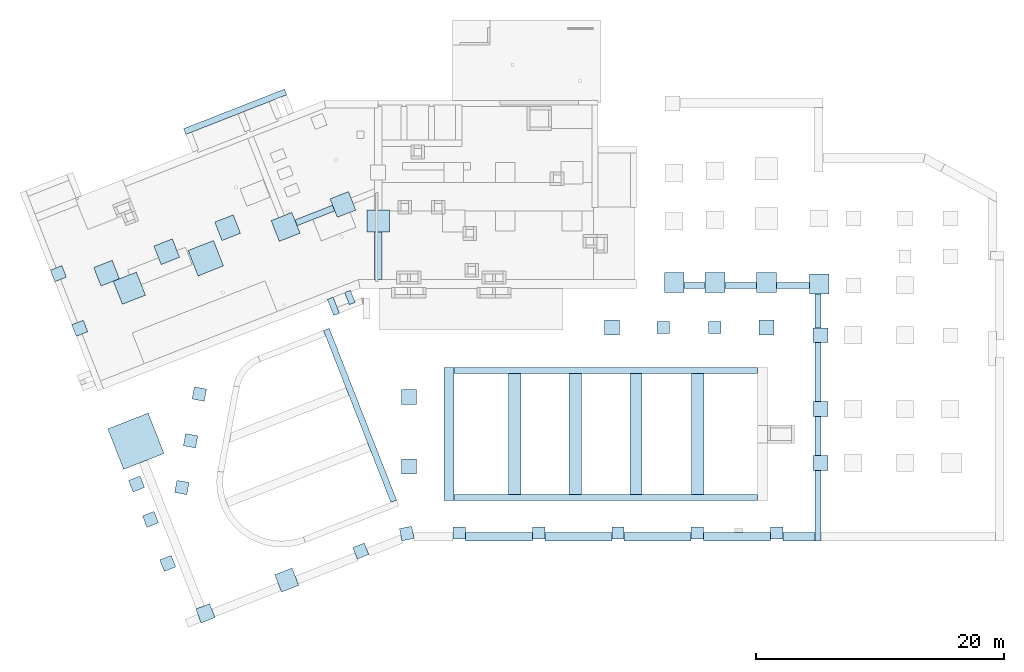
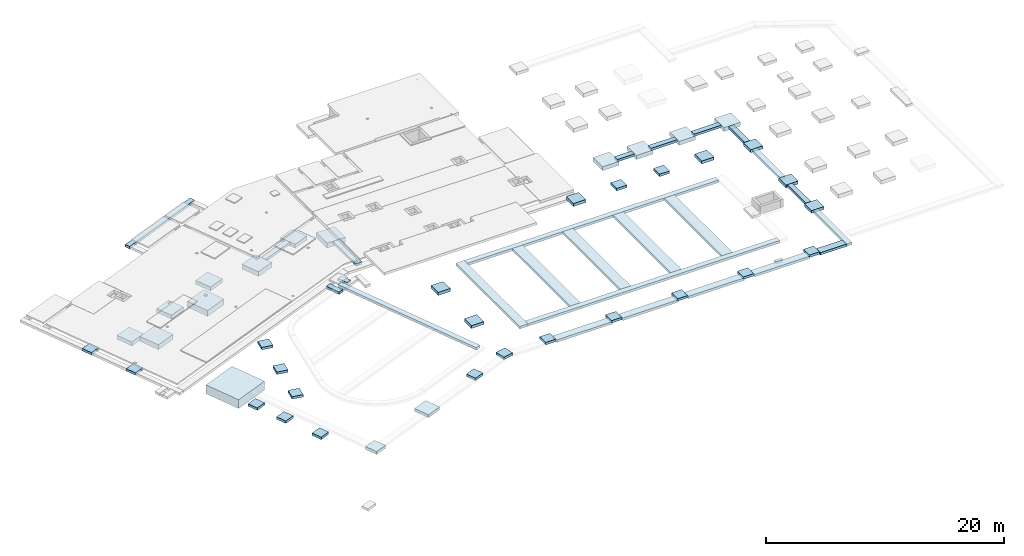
# One storey, part 1 of 9: 64 footings.
"""IFC2X3 building model written with IfcOpenShell, lengths in metres."""

import ifcopenshell
import ifcopenshell.guid

model = None  # the IFC model being written
_history = None  # IfcOwnerHistory: only IFC2X3 demands one
_inside = {}  # id of a spatial element -> (the spatial element, [elements in it])
_under = {}  # id of a project, library or spatial element -> (it, [spatial elements below it])
_declared = {}  # id of a project -> (the project, [libraries it declares])
_typed = {}  # id of a type object -> (the type object, [elements of that type])
_made_of = {}  # id of a material, layer set ... -> (it, [elements and type objects made of it])


def new_model(schema):
    """Start an empty IFC model of exactly this schema.

    Asked for "IFC4X3", IfcOpenShell would pick the latest addendum, in which some entities
    have other attributes; the version numbers below select the first issue.
    IFC2X3 requires an IfcOwnerHistory on every rooted entity: one is made here for all.
    """
    global model, _history
    if schema == "IFC4X3":
        model = ifcopenshell.file(schema_version=(4, 3, 0, 0))
    else:
        model = ifcopenshell.file(schema=schema)
    _inside.clear()
    _under.clear()
    _declared.clear()
    _typed.clear()
    _made_of.clear()
    _history = None
    if model.schema == "IFC2X3":
        org = make("IfcOrganization", Name="unknown")
        user = make(
            "IfcPersonAndOrganization",
            ThePerson=make("IfcPerson", FamilyName="unknown"),
            TheOrganization=org,
        )
        app = make(
            "IfcApplication",
            ApplicationDeveloper=org,
            Version="unknown",
            ApplicationFullName="unknown",
            ApplicationIdentifier="unknown",
        )
        _history = make(
            "IfcOwnerHistory",
            OwningUser=user,
            OwningApplication=app,
            ChangeAction="ADDED",
            CreationDate=0,
        )
    return model


def make(cls, **values):
    """One entity of the class cls with the attributes given. An attribute that is None is left unset."""
    return model.create_entity(
        cls, **{name: value for name, value in values.items() if value is not None}
    )


def entity(cls, *values):
    """Any entity or typed value of the class cls, its attributes in the order of the schema. None: left unset."""
    e = model.create_entity(cls)
    for i, value in enumerate(values):
        if value is not None:
            e[i] = value
    return e


def rooted(cls, **values):
    """An entity with a GlobalId (a new one), such as an element, a storey or a relation."""
    return make(cls, GlobalId=ifcopenshell.guid.new(), OwnerHistory=_history, **values)


def si_unit(unit_type, name, prefix=None):
    """IfcSIUnit, for example si_unit("LENGTHUNIT", "METRE", prefix="MILLI")."""
    return make("IfcSIUnit", UnitType=unit_type, Prefix=prefix, Name=name)


def converted_unit(unit_type, name, factor, base, dimensions=None, offset=None):
    """IfcConversionBasedUnit, such as the inch: factor (a typed value) times the base unit."""
    return make(
        "IfcConversionBasedUnit"
        if offset is None
        else "IfcConversionBasedUnitWithOffset",
        ConversionOffset=offset,
        Dimensions=None
        if dimensions is None
        else entity("IfcDimensionalExponents", *dimensions),
        UnitType=unit_type,
        Name=name,
        ConversionFactor=make(
            "IfcMeasureWithUnit", ValueComponent=factor, UnitComponent=base
        ),
    )


def assignment(units):
    """IfcUnitAssignment: the units of a project."""
    return None if units is None else make("IfcUnitAssignment", Units=units)


def point(xyz):
    """IfcCartesianPoint."""
    return None if xyz is None else make("IfcCartesianPoint", Coordinates=xyz)


def direction(xyz):
    """IfcDirection."""
    return None if xyz is None else make("IfcDirection", DirectionRatios=xyz)


def frame(location, z_axis=None, x_axis=None):
    """IfcAxis2Placement3D, a coordinate frame: its origin and axes. An axis left out is left unset."""
    return make(
        "IfcAxis2Placement3D",
        Location=point(location),
        Axis=direction(z_axis),
        RefDirection=direction(x_axis),
    )


def frame_2d(location, x_axis=None):
    """IfcAxis2Placement2D, a coordinate frame in the plane: its origin and x axis."""
    return make(
        "IfcAxis2Placement2D", Location=point(location), RefDirection=direction(x_axis)
    )


def origin():
    """The frame at (0, 0, 0) with its axes left unset."""
    return frame((0.0, 0.0, 0.0))


def origin_with_axes():
    """The frame at (0, 0, 0) with the z axis (0, 0, 1) and the x axis (1, 0, 0) written out."""
    return frame((0.0, 0.0, 0.0), z_axis=(0.0, 0.0, 1.0), x_axis=(1.0, 0.0, 0.0))


def place(relative_to, where):
    """IfcLocalPlacement: puts the frame where relative to a parent placement (None: the world)."""
    return make(
        "IfcLocalPlacement", PlacementRelTo=relative_to, RelativePlacement=where
    )


def context(
    kind, dimensions, precision=None, world=None, true_north=None, identifier=None
):
    """IfcGeometricRepresentationContext, for example the 3D "Model" context."""
    return make(
        "IfcGeometricRepresentationContext",
        ContextIdentifier=identifier,
        ContextType=kind,
        CoordinateSpaceDimension=dimensions,
        Precision=precision,
        WorldCoordinateSystem=world,
        TrueNorth=true_north,
    )


def subcontext(parent, identifier, kind, view, scale=None):
    """IfcGeometricRepresentationSubContext, for example "Body" below "Model"."""
    return make(
        "IfcGeometricRepresentationSubContext",
        ContextIdentifier=identifier,
        ContextType=kind,
        ParentContext=parent,
        TargetScale=scale,
        TargetView=view,
    )


def project(units=None, contexts=None):
    """IfcProject with its units and contexts."""
    return rooted(
        "IfcProject",
        Name="project",
        RepresentationContexts=contexts,
        UnitsInContext=assignment(units),
    )


def spatial(cls, under=None, at=None, **own):
    """A site, building, storey or space (cls), placed at a placement, below another one or the project."""
    s = rooted(cls, ObjectPlacement=at, **own)
    if under is not None:
        _under.setdefault(under.id(), (under, []))[1].append(s)
    return s


def profile(cls, at=None, kind="AREA", **sizes):
    """A parametric profile (cls). Its sizes go by their IFC names, for example OverallWidth=200.0."""
    return make(cls, ProfileType=kind, Position=at, **sizes)


def rectangle(**sizes):
    """IfcRectangleProfileDef."""
    return profile("IfcRectangleProfileDef", **sizes)


def extrude(swept, where, along, depth):
    """IfcExtrudedAreaSolid: the profile swept, set in the frame where, extruded along a direction by depth."""
    return make(
        "IfcExtrudedAreaSolid",
        SweptArea=swept,
        Position=where,
        ExtrudedDirection=direction(along),
        Depth=depth,
    )


def shape(context_of_items, identifier, shape_type, items):
    """IfcShapeRepresentation: the items that make up one representation, for example the "Body"."""
    return make(
        "IfcShapeRepresentation",
        ContextOfItems=context_of_items,
        RepresentationIdentifier=identifier,
        RepresentationType=shape_type,
        Items=items,
    )


def material(Name=None, Category=None):
    """IfcMaterial."""
    return make("IfcMaterial", Name=Name, Category=Category)


def made_of(thing, what):
    """Note that an element or type object is made of a material, layer set ...; save() writes the relation."""
    if what is not None:
        _made_of.setdefault(what.id(), (what, []))[1].append(thing)
    return thing


def element(
    cls,
    number,
    at=None,
    inside=None,
    cuts=None,
    type_object=None,
    material=None,
    context=None,
    identifier="Body",
    shape_type=None,
    held_by="IfcProductDefinitionShape",
    body=None,
    shapes=None,
    **own,
):
    """One element of the class cls, such as IfcWall. Its Tag is "e" and its number.

    at: its placement. inside: the storey or other place that contains it. cuts: it is an
    opening in that element (IfcRelVoidsElement). A single representation is given by context,
    identifier, shape_type and body (its items); several are given by shapes. held_by: the class
    of the entity that holds the representations. save() writes the other relations.
    """
    e = rooted(cls, Tag="e%d" % number, ObjectPlacement=at, **own)
    if body is not None:
        shapes = [shape(context, identifier, shape_type, body)]
    if shapes is not None:
        e.Representation = make(held_by, Representations=shapes)
    if inside is not None:
        _inside.setdefault(inside.id(), (inside, []))[1].append(e)
    if cuts is not None:
        rooted(
            "IfcRelVoidsElement", RelatingBuildingElement=cuts, RelatedOpeningElement=e
        )
    if type_object is not None:
        _typed.setdefault(type_object.id(), (type_object, []))[1].append(e)
    return made_of(e, material)


def aggregate(whole, parts):
    """IfcRelAggregates: a whole, such as a stair, and the parts it consists of."""
    return rooted("IfcRelAggregates", RelatingObject=whole, RelatedObjects=parts)


def save(model, path):
    """Write the relations noted so far, then the file.

    IfcRelAggregates (storeys below a building ...), IfcRelContainedInSpatialStructure (elements
    in a storey), IfcRelDefinesByType, IfcRelAssociatesMaterial and IfcRelDeclares: one each for
    every whole, place, type object, material and project.
    """
    for whole, parts in _under.values():
        aggregate(whole, parts)
    for where, things in _inside.values():
        rooted(
            "IfcRelContainedInSpatialStructure",
            RelatedElements=things,
            RelatingStructure=where,
        )
    for kind, things in _typed.values():
        rooted("IfcRelDefinesByType", RelatedObjects=things, RelatingType=kind)
    for what, things in _made_of.values():
        rooted("IfcRelAssociatesMaterial", RelatedObjects=things, RelatingMaterial=what)
    for by, libraries in _declared.values():
        rooted("IfcRelDeclares", RelatingContext=by, RelatedDefinitions=libraries)
    model.write(path)


model = new_model("IFC2X3")

# Units and contexts
model_context = context("Model", 3, precision=1e-05, world=origin(), true_north=direction((-0.407059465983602, -0.913401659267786)))
body_context = subcontext(model_context, "Body", "Model", "MODEL_VIEW")
ifc_project = project(units=[si_unit("LENGTHUNIT", "METRE"), si_unit("AREAUNIT", "SQUARE_METRE"), si_unit("VOLUMEUNIT", "CUBIC_METRE"), si_unit("MASSUNIT", "GRAM", prefix="KILO"), converted_unit("PLANEANGLEUNIT", "DEGREE", entity("IfcPlaneAngleMeasure", 0.0174532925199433), si_unit("PLANEANGLEUNIT", "RADIAN"), dimensions=[0, 0, 0, 0, 0, 0, 0])], contexts=[model_context])

# Site, buildings, storey
site_placement = place(None, origin())
site = spatial("IfcSite", under=ifc_project, at=site_placement, Name="Site", CompositionType="ELEMENT")
building_1_placement = place(site_placement, origin())
building_1 = spatial("IfcBuilding", under=site, at=building_1_placement, Name="Site", CompositionType="COMPLEX")
building_2_placement = place(building_1_placement, origin())
building_2 = spatial("IfcBuilding", under=building_1, at=building_2_placement, Name="Bâtiments", CompositionType="ELEMENT")
storey_placement = place(building_2_placement, frame((0.0, 0.0, -7.1)))
storey = spatial("IfcBuildingStorey", under=building_2, at=storey_placement, Name="FONDATIONS", CompositionType="ELEMENT", Elevation=-7.1)

# Footings
ifc_material_1 = material(Name="Béton")
footing_1_placement = place(storey_placement, frame((63.0633573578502, -25.2449220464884, 3.95), z_axis=(0.0, 0.0, 1.0), x_axis=(-1.0, -9.60407284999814e-11, 0.0)))
element("IfcFooting", 1, at=footing_1_placement, inside=storey, material=ifc_material_1, Name="SF006", PredefinedType="STRIP_FOOTING", context=body_context, shape_type="SweptSolid", body=[
    extrude(rectangle(XDim=0.7, YDim=0.25, at=frame_2d((0.35, 0.125), x_axis=(1.0, 0.0))), frame((0.0, 0.0, 0.0), z_axis=(1.0, 0.0, 0.0), x_axis=(0.0, 1.0, 0.0)), (0.0, 0.0, 1.0), 2.56137674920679),
])
ifc_material_2 = material(Name="Béton")
footing_2_placement = place(storey_placement, frame((63.063357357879, -20.2400198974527, 3.95), z_axis=(0.0, 0.0, 1.0), x_axis=(0.0, -1.0, 0.0)))
element("IfcFooting", 2, at=footing_2_placement, inside=storey, material=ifc_material_2, Name="SF001", PredefinedType="STRIP_FOOTING", context=body_context, shape_type="SweptSolid", body=[
    extrude(rectangle(XDim=0.5, YDim=0.25, at=frame_2d((0.25, 0.125), x_axis=(1.0, 0.0))), frame((0.0, 0.0, 0.0), z_axis=(1.0, 0.0, 0.0), x_axis=(0.0, 1.0, 0.0)), (0.0, 0.0, 1.0), 5.70490214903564),
])
ifc_material_3 = material(Name="Béton")
footing_3_placement = place(storey_placement, frame((63.063357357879, -6.03049807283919, 3.95), z_axis=(0.0, 0.0, 1.0), x_axis=(0.0, -1.0, 0.0)))
element("IfcFooting", 3, at=footing_3_placement, inside=storey, material=ifc_material_3, Name="SF001", PredefinedType="STRIP_FOOTING", context=body_context, shape_type="SweptSolid", body=[
    extrude(rectangle(XDim=0.5, YDim=0.25, at=frame_2d((0.25, 0.125), x_axis=(1.0, 0.0))), frame((0.0, 0.0, 0.0), z_axis=(1.0, 0.0, 0.0), x_axis=(0.0, 1.0, 0.0)), (0.0, 0.0, 1.0), 2.72694255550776),
])
ifc_material_4 = material(Name="Béton")
footing_4_placement = place(storey_placement, frame((63.063357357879, -9.95744062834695, 3.95), z_axis=(0.0, 0.0, 1.0), x_axis=(-1.52990692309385e-15, -1.0, 0.0)))
element("IfcFooting", 4, at=footing_4_placement, inside=storey, material=ifc_material_4, Name="SF001", PredefinedType="STRIP_FOOTING", context=body_context, shape_type="SweptSolid", body=[
    extrude(rectangle(XDim=0.5, YDim=0.25, at=frame_2d((0.25, 0.125), x_axis=(1.0, 0.0))), frame((0.0, 0.0, 0.0), z_axis=(1.0, 0.0, 0.0), x_axis=(0.0, 1.0, 0.0)), (0.0, 0.0, 1.0), 4.75581717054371),
])
ifc_material_5 = material(Name="Béton")
footing_5_placement = place(storey_placement, frame((63.063357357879, -15.9132577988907, 3.95), z_axis=(0.0, 0.0, 1.0), x_axis=(0.0, -1.0, 0.0)))
element("IfcFooting", 5, at=footing_5_placement, inside=storey, material=ifc_material_5, Name="SF001", PredefinedType="STRIP_FOOTING", context=body_context, shape_type="SweptSolid", body=[
    extrude(rectangle(XDim=0.5, YDim=0.25, at=frame_2d((0.25, 0.125), x_axis=(1.0, 0.0))), frame((0.0, 0.0, 0.0), z_axis=(1.0, 0.0, 0.0), x_axis=(0.0, 1.0, 0.0)), (0.0, 0.0, 1.0), 3.12676209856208),
])
ifc_material_6 = material(Name="Béton")
footing_6_placement = place(storey_placement, frame((29.3639656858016, -22.6439161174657, 3.36), z_axis=(0.0, 0.0, 1.0), x_axis=(-0.365248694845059, 0.93090998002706, 0.0)))
element("IfcFooting", 6, at=footing_6_placement, inside=storey, material=ifc_material_6, Name="SF001", PredefinedType="STRIP_FOOTING", context=body_context, shape_type="SweptSolid", body=[
    extrude(rectangle(XDim=0.500000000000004, YDim=0.25, at=frame_2d((0.250000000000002, 0.125), x_axis=(1.0, 0.0))), frame((0.0, 0.0, 0.0), z_axis=(1.0, 0.0, 0.0), x_axis=(0.0, 1.0, 0.0)), (0.0, 0.0, 1.0), 14.881738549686),
])
ifc_material_7 = material(Name="Béton")
footing_7_placement = place(storey_placement, frame((59.5019806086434, -25.2449220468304, 3.95), z_axis=(0.0, 0.0, 1.0), x_axis=(-1.0, -9.6041024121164e-11, 0.0)))
element("IfcFooting", 7, at=footing_7_placement, inside=storey, material=ifc_material_7, Name="SF006", PredefinedType="STRIP_FOOTING", context=body_context, shape_type="SweptSolid", body=[
    extrude(rectangle(XDim=0.699999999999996, YDim=0.25, at=frame_2d((0.349999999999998, 0.125), x_axis=(1.0, 0.0))), frame((0.0, 0.0, 0.0), z_axis=(1.0, 0.0, 0.0), x_axis=(0.0, 1.0, 0.0)), (0.0, 0.0, 1.0), 5.39698476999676),
])
ifc_material_8 = material(Name="Béton")
footing_8_placement = place(storey_placement, frame((53.1049958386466, -25.2449220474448, 3.95), z_axis=(0.0, 0.0, 1.0), x_axis=(-1.0, -9.60411713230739e-11, 0.0)))
element("IfcFooting", 8, at=footing_8_placement, inside=storey, material=ifc_material_8, Name="SF006", PredefinedType="STRIP_FOOTING", context=body_context, shape_type="SweptSolid", body=[
    extrude(rectangle(XDim=0.7, YDim=0.25, at=frame_2d((0.35, 0.125), x_axis=(1.0, 0.0))), frame((0.0, 0.0, 0.0), z_axis=(1.0, 0.0, 0.0), x_axis=(0.0, 1.0, 0.0)), (0.0, 0.0, 1.0), 5.39883258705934),
])
ifc_material_9 = material(Name="Béton")
footing_9_placement = place(storey_placement, frame((46.7061632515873, -25.2449220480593, 3.95), z_axis=(0.0, 0.0, 1.0), x_axis=(-1.0, -9.60411862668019e-11, 0.0)))
element("IfcFooting", 9, at=footing_9_placement, inside=storey, material=ifc_material_9, Name="SF006", PredefinedType="STRIP_FOOTING", context=body_context, shape_type="SweptSolid", body=[
    extrude(rectangle(XDim=0.7, YDim=0.25, at=frame_2d((0.35, 0.125), x_axis=(1.0, 0.0))), frame((0.0, 0.0, 0.0), z_axis=(1.0, 0.0, 0.0), x_axis=(0.0, 1.0, 0.0)), (0.0, 0.0, 1.0), 5.39890750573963),
])
ifc_material_10 = material(Name="Béton")
footing_10_placement = place(storey_placement, frame((40.3072557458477, -25.2449220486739, 3.95), z_axis=(0.0, 0.0, 1.0), x_axis=(-1.0, -9.60408200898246e-11, 0.0)))
element("IfcFooting", 10, at=footing_10_placement, inside=storey, material=ifc_material_10, Name="SF006", PredefinedType="STRIP_FOOTING", context=body_context, shape_type="SweptSolid", body=[
    extrude(rectangle(XDim=0.7, YDim=0.25, at=frame_2d((0.35, 0.125), x_axis=(1.0, 0.0))), frame((0.0, 0.0, 0.0), z_axis=(1.0, 0.0, 0.0), x_axis=(0.0, 1.0, 0.0)), (0.0, 0.0, 1.0), 5.39881445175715),
])
ifc_material_11 = material(Name="Béton")
footing_11_placement = place(storey_placement, frame((59.5019806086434, -25.794936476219, 3.95)))
element("IfcFooting", 11, at=footing_11_placement, inside=storey, material=ifc_material_11, Name="M001-E", PredefinedType="PAD_FOOTING", context=body_context, shape_type="SweptSolid", body=[
    extrude(rectangle(XDim=1.0, YDim=1.0, at=frame_2d((0.5, 0.5), x_axis=(1.0, 0.0))), origin_with_axes(), (0.0, 0.0, 1.0), 0.25),
])
ifc_material_12 = material(Name="Béton")
footing_12_placement = place(storey_placement, frame((53.1049958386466, -25.7949126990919, 3.95)))
element("IfcFooting", 12, at=footing_12_placement, inside=storey, material=ifc_material_12, Name="M001-E", PredefinedType="PAD_FOOTING", context=body_context, shape_type="SweptSolid", body=[
    extrude(rectangle(XDim=1.0, YDim=1.0, at=frame_2d((0.5, 0.5), x_axis=(1.0, 0.0))), origin_with_axes(), (0.0, 0.0, 1.0), 0.25),
])
ifc_material_13 = material(Name="Béton")
footing_13_placement = place(storey_placement, frame((46.7061632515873, -25.7949126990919, 3.95)))
element("IfcFooting", 13, at=footing_13_placement, inside=storey, material=ifc_material_13, Name="M001-E", PredefinedType="PAD_FOOTING", context=body_context, shape_type="SweptSolid", body=[
    extrude(rectangle(XDim=1.0, YDim=1.0, at=frame_2d((0.5, 0.5), x_axis=(1.0, 0.0))), origin_with_axes(), (0.0, 0.0, 1.0), 0.25),
])
ifc_material_14 = material(Name="Béton")
footing_14_placement = place(storey_placement, frame((40.3072557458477, -25.7949126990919, 3.95)))
element("IfcFooting", 14, at=footing_14_placement, inside=storey, material=ifc_material_14, Name="M001-E", PredefinedType="PAD_FOOTING", context=body_context, shape_type="SweptSolid", body=[
    extrude(rectangle(XDim=1.0, YDim=1.0, at=frame_2d((0.5, 0.5), x_axis=(1.0, 0.0))), origin_with_axes(), (0.0, 0.0, 1.0), 0.25),
])
ifc_material_15 = material(Name="Béton")
footing_15_placement = place(storey_placement, frame((33.9084412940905, -25.7949126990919, 3.95)))
element("IfcFooting", 15, at=footing_15_placement, inside=storey, material=ifc_material_15, Name="M001-E", PredefinedType="PAD_FOOTING", context=body_context, shape_type="SweptSolid", body=[
    extrude(rectangle(XDim=1.0, YDim=1.0, at=frame_2d((0.5, 0.5), x_axis=(1.0, 0.0))), origin_with_axes(), (0.0, 0.0, 1.0), 0.25),
])
ifc_material_16 = material(Name="Béton")
footing_16_placement = place(storey_placement, frame((29.5922772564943, -25.928392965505, 3.95)))
element("IfcFooting", 16, at=footing_16_placement, inside=storey, material=ifc_material_16, Name="M001-E", PredefinedType="PAD_FOOTING", context=body_context, shape_type="SweptSolid", body=[
    extrude(rectangle(XDim=0.999999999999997, YDim=1.0, at=frame_2d((0.389361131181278, 0.590252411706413), x_axis=(0.97961354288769, 0.200891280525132))), frame((0.200891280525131, 0.0, 0.0), z_axis=(0.0, 0.0, 1.0), x_axis=(1.0, 0.0, 0.0)), (0.0, 0.0, 1.0), 0.25),
])
ifc_material_17 = material(Name="Béton")
footing_17_placement = place(storey_placement, frame((25.8260765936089, -27.3956167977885, 3.95)))
element("IfcFooting", 17, at=footing_17_placement, inside=storey, material=ifc_material_17, Name="M001-E", PredefinedType="PAD_FOOTING", context=body_context, shape_type="SweptSolid", body=[
    extrude(rectangle(XDim=1.00000000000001, YDim=1.0, at=frame_2d((0.648079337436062, -0.282830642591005), x_axis=(0.365248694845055, -0.930909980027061))), frame((0.0, 0.930909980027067, 0.0), z_axis=(0.0, 0.0, 1.0), x_axis=(1.0, 0.0, 0.0)), (0.0, 0.0, 1.0), 0.25),
])
ifc_material_18 = material(Name="Béton")
footing_18_placement = place(storey_placement, frame((62.6233865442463, -6.03049807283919, 3.8)))
element("IfcFooting", 18, at=footing_18_placement, inside=storey, material=ifc_material_18, Name="M003-C", PredefinedType="PAD_FOOTING", context=body_context, shape_type="SweptSolid", body=[
    extrude(rectangle(XDim=1.6, YDim=1.6, at=frame_2d((0.8, 0.800000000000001), x_axis=(1.0, 0.0))), origin_with_axes(), (0.0, 0.0, 1.0), 0.4),
])
ifc_material_19 = material(Name="Béton")
footing_19_placement = place(storey_placement, frame((50.3626079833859, -9.23387882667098, 3.95)))
element("IfcFooting", 19, at=footing_19_placement, inside=storey, material=ifc_material_19, Name="M001-D", PredefinedType="PAD_FOOTING", context=body_context, shape_type="SweptSolid", body=[
    extrude(rectangle(XDim=1.0, YDim=1.0, at=frame_2d((0.5, 0.5), x_axis=(1.0, 0.0))), origin_with_axes(), (0.0, 0.0, 1.0), 0.25),
])
ifc_material_20 = material(Name="Béton")
footing_20_placement = place(storey_placement, frame((46.1126079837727, -9.33397582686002, 3.9)))
element("IfcFooting", 20, at=footing_20_placement, inside=storey, material=ifc_material_20, Name="M002-A", PredefinedType="PAD_FOOTING", context=body_context, shape_type="SweptSolid", body=[
    extrude(rectangle(XDim=1.2, YDim=1.2, at=frame_2d((0.6, 0.6), x_axis=(1.0, 0.0))), origin_with_axes(), (0.0, 0.0, 1.0), 0.3),
])
ifc_material_21 = material(Name="Béton")
footing_21_placement = place(storey_placement, frame((54.5126079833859, -9.23387882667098, 3.95)))
element("IfcFooting", 21, at=footing_21_placement, inside=storey, material=ifc_material_21, Name="M001-D", PredefinedType="PAD_FOOTING", context=body_context, shape_type="SweptSolid", body=[
    extrude(rectangle(XDim=1.0, YDim=1.0, at=frame_2d((0.5, 0.5), x_axis=(1.0, 0.0))), origin_with_axes(), (0.0, 0.0, 1.0), 0.25),
])
ifc_material_22 = material(Name="Béton")
footing_22_placement = place(storey_placement, frame((58.5626079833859, -9.33387882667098, 3.9)))
element("IfcFooting", 22, at=footing_22_placement, inside=storey, material=ifc_material_22, Name="M002-A", PredefinedType="PAD_FOOTING", context=body_context, shape_type="SweptSolid", body=[
    extrude(rectangle(XDim=1.2, YDim=1.2, at=frame_2d((0.6, 0.6), x_axis=(1.0, 0.0))), origin_with_axes(), (0.0, 0.0, 1.0), 0.3),
])
ifc_material_23 = material(Name="Béton")
footing_23_placement = place(storey_placement, frame((62.9333664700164, -9.95744062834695, 3.9)))
element("IfcFooting", 23, at=footing_23_placement, inside=storey, material=ifc_material_23, Name="M002-A", PredefinedType="PAD_FOOTING", context=body_context, shape_type="SweptSolid", body=[
    extrude(rectangle(XDim=1.2, YDim=1.2, at=frame_2d((0.6, 0.6), x_axis=(1.0, 0.0))), origin_with_axes(), (0.0, 0.0, 1.0), 0.3),
])
ifc_material_24 = material(Name="Béton")
footing_24_placement = place(storey_placement, frame((62.9333664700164, -15.9132577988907, 3.9)))
element("IfcFooting", 24, at=footing_24_placement, inside=storey, material=ifc_material_24, Name="M002-A", PredefinedType="PAD_FOOTING", context=body_context, shape_type="SweptSolid", body=[
    extrude(rectangle(XDim=1.2, YDim=1.2, at=frame_2d((0.6, 0.6), x_axis=(1.0, 0.0))), origin_with_axes(), (0.0, 0.0, 1.0), 0.3),
])
ifc_material_25 = material(Name="Béton")
footing_25_placement = place(storey_placement, frame((62.9333670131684, -20.2400198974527, 3.9)))
element("IfcFooting", 25, at=footing_25_placement, inside=storey, material=ifc_material_25, Name="M002-A", PredefinedType="PAD_FOOTING", context=body_context, shape_type="SweptSolid", body=[
    extrude(rectangle(XDim=1.2, YDim=1.2, at=frame_2d((0.6, 0.6), x_axis=(1.0, 0.0))), origin_with_axes(), (0.0, 0.0, 1.0), 0.3),
])
ifc_material_26 = material(Name="Béton")
footing_26_placement = place(storey_placement, frame((29.74394056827, -14.9376427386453, 3.9)))
element("IfcFooting", 26, at=footing_26_placement, inside=storey, material=ifc_material_26, Name="M002-A", PredefinedType="PAD_FOOTING", context=body_context, shape_type="SweptSolid", body=[
    extrude(rectangle(XDim=1.2, YDim=1.2, at=frame_2d((0.6, 0.6), x_axis=(1.0, 0.0))), origin_with_axes(), (0.0, 0.0, 1.0), 0.3),
])
ifc_material_27 = material(Name="Béton")
footing_27_placement = place(storey_placement, frame((29.7439132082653, -20.5412941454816, 3.9)))
element("IfcFooting", 27, at=footing_27_placement, inside=storey, material=ifc_material_27, Name="M002-A", PredefinedType="PAD_FOOTING", context=body_context, shape_type="SweptSolid", body=[
    extrude(rectangle(XDim=1.2, YDim=1.2, at=frame_2d((0.6, 0.6), x_axis=(1.0, 0.0))), origin_with_axes(), (0.0, 0.0, 1.0), 0.3),
])
ifc_material_28 = material(Name="Béton")
footing_28_placement = place(storey_placement, frame((12.8753859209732, -14.6794473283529, 3.95)))
element("IfcFooting", 28, at=footing_28_placement, inside=storey, material=ifc_material_28, Name="M001-C", PredefinedType="PAD_FOOTING", context=body_context, shape_type="SweptSolid", body=[
    extrude(rectangle(XDim=0.999999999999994, YDim=0.999999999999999, at=frame_2d((0.399949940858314, -0.583129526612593), x_axis=(-0.183179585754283, -0.983079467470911))), frame((0.183179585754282, 1.16625905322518, 0.0), z_axis=(0.0, 0.0, 1.0), x_axis=(1.0, 0.0, 0.0)), (0.0, 0.0, 1.0), 0.25),
])
ifc_material_29 = material(Name="Béton")
footing_29_placement = place(storey_placement, frame((11.4717844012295, -22.2115694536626, 3.95)))
element("IfcFooting", 29, at=footing_29_placement, inside=storey, material=ifc_material_29, Name="M001-C", PredefinedType="PAD_FOOTING", context=body_context, shape_type="SweptSolid", body=[
    extrude(rectangle(XDim=0.999999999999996, YDim=0.999999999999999, at=frame_2d((0.399949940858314, -0.583129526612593), x_axis=(-0.183179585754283, -0.983079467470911))), frame((0.183179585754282, 1.16625905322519, 0.0), z_axis=(0.0, 0.0, 1.0), x_axis=(1.0, 0.0, 0.0)), (0.0, 0.0, 1.0), 0.25),
])
ifc_material_30 = material(Name="Béton")
footing_30_placement = place(storey_placement, frame((19.5373099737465, -30.059844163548, 3.9)))
element("IfcFooting", 30, at=footing_30_placement, inside=storey, material=ifc_material_30, Name="M009", PredefinedType="PAD_FOOTING", context=body_context, shape_type="SweptSolid", body=[
    extrude(rectangle(XDim=1.5, YDim=1.5, at=frame_2d((0.4242484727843, 0.97211791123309), x_axis=(0.930910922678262, 0.365246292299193))), frame((0.54786943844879, 0.0, 0.0), z_axis=(0.0, 0.0, 1.0), x_axis=(1.0, 0.0, 0.0)), (0.0, 0.0, 1.0), 0.3),
])
ifc_material_31 = material(Name="Béton")
footing_31_placement = place(storey_placement, frame((13.1735099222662, -32.5460048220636, 3.9)))
element("IfcFooting", 31, at=footing_31_placement, inside=storey, material=ifc_material_31, Name="M008", PredefinedType="PAD_FOOTING", context=body_context, shape_type="SweptSolid", body=[
    extrude(rectangle(XDim=1.2, YDim=1.2, at=frame_2d((0.339398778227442, 0.777694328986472), x_axis=(0.930910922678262, 0.365246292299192))), frame((0.43829555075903, 0.0, 0.0), z_axis=(0.0, 0.0, 1.0), x_axis=(1.0, 0.0, 0.0)), (0.0, 0.0, 1.0), 0.3),
])
ifc_material_32 = material(Name="Béton")
footing_32_placement = place(storey_placement, frame((12.1736883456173, -18.445527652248, 3.95)))
element("IfcFooting", 32, at=footing_32_placement, inside=storey, material=ifc_material_32, Name="M001-C", PredefinedType="PAD_FOOTING", context=body_context, shape_type="SweptSolid", body=[
    extrude(rectangle(XDim=0.999999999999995, YDim=0.999999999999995, at=frame_2d((-0.583129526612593, -0.399949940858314), x_axis=(-0.983079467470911, 0.183179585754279))), frame((1.16625905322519, 0.98307946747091, 0.0), z_axis=(0.0, 0.0, 1.0), x_axis=(1.0, 0.0, 0.0)), (0.0, 0.0, 1.0), 0.25),
])
ifc_material_33 = material(Name="Béton")
footing_33_placement = place(storey_placement, frame((7.75790156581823, -21.9926126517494, 3.95)))
element("IfcFooting", 33, at=footing_33_placement, inside=storey, material=ifc_material_33, Name="M001-C", PredefinedType="PAD_FOOTING", context=body_context, shape_type="SweptSolid", body=[
    extrude(rectangle(XDim=1.0, YDim=0.999999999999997, at=frame_2d((-0.648079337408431, 0.282830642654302), x_axis=(-0.365248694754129, 0.930909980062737))), frame((1.29615867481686, 0.365248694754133, 0.0), z_axis=(0.0, 0.0, 1.0), x_axis=(1.0, 0.0, 0.0)), (0.0, 0.0, 1.0), 0.25),
])
ifc_material_34 = material(Name="Béton")
footing_34_placement = place(storey_placement, frame((8.87749467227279, -24.8461215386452, 3.95)))
element("IfcFooting", 34, at=footing_34_placement, inside=storey, material=ifc_material_34, Name="M001-C", PredefinedType="PAD_FOOTING", context=body_context, shape_type="SweptSolid", body=[
    extrude(rectangle(XDim=1.0, YDim=0.999999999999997, at=frame_2d((-0.648079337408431, 0.282830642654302), x_axis=(-0.365248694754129, 0.930909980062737))), frame((1.29615867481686, 0.365248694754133, 0.0), z_axis=(0.0, 0.0, 1.0), x_axis=(1.0, 0.0, 0.0)), (0.0, 0.0, 1.0), 0.25),
])
ifc_material_35 = material(Name="Béton")
footing_35_placement = place(storey_placement, frame((10.2691187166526, -28.3929561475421, 3.95)))
element("IfcFooting", 35, at=footing_35_placement, inside=storey, material=ifc_material_35, Name="M001-C", PredefinedType="PAD_FOOTING", context=body_context, shape_type="SweptSolid", body=[
    extrude(rectangle(XDim=1.0, YDim=0.999999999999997, at=frame_2d((-0.648079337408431, 0.282830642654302), x_axis=(-0.365248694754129, 0.930909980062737))), frame((1.29615867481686, 0.365248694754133, 0.0), z_axis=(0.0, 0.0, 1.0), x_axis=(1.0, 0.0, 0.0)), (0.0, 0.0, 1.0), 0.25),
])
ifc_material_36 = material(Name="Béton")
footing_36_placement = place(storey_placement, frame((58.3629407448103, -5.89394903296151, 3.8)))
element("IfcFooting", 36, at=footing_36_placement, inside=storey, material=ifc_material_36, Name="M003-B", PredefinedType="PAD_FOOTING", context=body_context, shape_type="SweptSolid", body=[
    extrude(rectangle(XDim=1.6, YDim=1.6, at=frame_2d((0.8, 0.800000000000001), x_axis=(1.0, 0.0))), origin_with_axes(), (0.0, 0.0, 1.0), 0.4),
])
ifc_material_37 = material(Name="Béton")
footing_37_placement = place(storey_placement, frame((54.2124790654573, -5.8939491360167, 3.8)))
element("IfcFooting", 37, at=footing_37_placement, inside=storey, material=ifc_material_37, Name="M003-B", PredefinedType="PAD_FOOTING", context=body_context, shape_type="SweptSolid", body=[
    extrude(rectangle(XDim=1.6, YDim=1.6, at=frame_2d((0.8, 0.800000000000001), x_axis=(1.0, 0.0))), origin_with_axes(), (0.0, 0.0, 1.0), 0.4),
])
ifc_material_38 = material(Name="Béton")
footing_38_placement = place(storey_placement, frame((50.9387053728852, -5.89394686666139, 3.8)))
element("IfcFooting", 38, at=footing_38_placement, inside=storey, material=ifc_material_38, Name="M003-B", PredefinedType="PAD_FOOTING", context=body_context, shape_type="SweptSolid", body=[
    extrude(rectangle(XDim=1.6, YDim=1.6, at=frame_2d((0.8, 0.800000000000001), x_axis=(1.0, 0.0))), origin_with_axes(), (0.0, 0.0, 1.0), 0.4),
])
ifc_material_39 = material(Name="Béton")
footing_39_placement = place(storey_placement, frame((6.08071183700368, -20.1643522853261, 3.3)))
element("IfcFooting", 39, at=footing_39_placement, inside=storey, material=ifc_material_39, Name="M010", PredefinedType="PAD_FOOTING", context=body_context, shape_type="SweptSolid", body=[
    extrude(rectangle(XDim=3.50000000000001, YDim=3.50000000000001, at=frame_2d((2.26827768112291, -0.989907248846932), x_axis=(0.365248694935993, -0.930909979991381))), frame((0.0, 3.25818492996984, 0.0), z_axis=(0.0, 0.0, 1.0), x_axis=(1.0, 0.0, 0.0)), (0.0, 0.0, 1.0), 0.9),
])
ifc_material_40 = material(Name="Béton")
footing_40_placement = place(storey_placement, frame((20.3268320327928, 10.482848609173, 1.55), z_axis=(0.0, 0.0, 1.0), x_axis=(-0.930925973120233, -0.365207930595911, 0.0)))
element("IfcFooting", 40, at=footing_40_placement, inside=storey, material=ifc_material_40, Name="SF001", PredefinedType="STRIP_FOOTING", context=body_context, shape_type="SweptSolid", body=[
    extrude(rectangle(XDim=0.499999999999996, YDim=0.25, at=frame_2d((0.249999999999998, 0.125), x_axis=(1.0, 0.0))), frame((0.0, 0.0, 0.0), z_axis=(1.0, 0.0, 0.0), x_axis=(0.0, 1.0, 0.0)), (0.0, 0.0, 1.0), 8.7341324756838),
])
ifc_material_41 = material(Name="Béton")
footing_41_placement = place(storey_placement, frame((24.7510804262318, -7.58110290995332, 1.55), z_axis=(0.0, 0.0, 1.0), x_axis=(-0.363688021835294, 0.931520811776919, 0.0)))
element("IfcFooting", 41, at=footing_41_placement, inside=storey, material=ifc_material_41, Name="SF001", PredefinedType="STRIP_FOOTING", context=body_context, shape_type="SweptSolid", body=[
    extrude(rectangle(XDim=0.5, YDim=0.25, at=frame_2d((0.25, 0.125), x_axis=(1.0, 0.0))), frame((0.0, 0.0, 0.0), z_axis=(1.0, 0.0, 0.0), x_axis=(0.0, 1.0, 0.0)), (0.0, 0.0, 1.0), 1.39662665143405),
])
ifc_material_42 = material(Name="Béton")
footing_42_placement = place(storey_placement, frame((26.0219376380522, -6.70920017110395, 1.55), z_axis=(0.0, 0.0, 1.0), x_axis=(-0.363688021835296, 0.931520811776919, 0.0)))
element("IfcFooting", 42, at=footing_42_placement, inside=storey, material=ifc_material_42, Name="SF001", PredefinedType="STRIP_FOOTING", context=body_context, shape_type="SweptSolid", body=[
    extrude(rectangle(XDim=0.5, YDim=0.25, at=frame_2d((0.25, 0.125), x_axis=(1.0, 0.0))), frame((0.0, 0.0, 0.0), z_axis=(1.0, 0.0, 0.0), x_axis=(0.0, 1.0, 0.0)), (0.0, 0.0, 1.0), 1.04662664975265),
])
ifc_material_43 = material(Name="Béton")
footing_43_placement = place(storey_placement, frame((28.1726463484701, -4.87842376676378, 1.55), z_axis=(0.0, 0.0, 1.0), x_axis=(9.49824124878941e-16, 1.0, 0.0)))
element("IfcFooting", 43, at=footing_43_placement, inside=storey, material=ifc_material_43, Name="SF002", PredefinedType="STRIP_FOOTING", context=body_context, shape_type="SweptSolid", body=[
    extrude(rectangle(XDim=0.6, YDim=0.25, at=frame_2d((0.3, 0.125), x_axis=(1.0, 0.0))), frame((0.0, 0.0, 0.0), z_axis=(1.0, 0.0, 0.0), x_axis=(0.0, 1.0, 0.0)), (0.0, 0.0, 1.0), 3.83016046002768),
])
ifc_material_44 = material(Name="Béton")
footing_44_placement = place(storey_placement, frame((24.1954264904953, 1.12530136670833, 1.55), z_axis=(0.0, 0.0, 1.0), x_axis=(-0.930910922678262, -0.365246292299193, 0.0)))
element("IfcFooting", 44, at=footing_44_placement, inside=storey, material=ifc_material_44, Name="SF001", PredefinedType="STRIP_FOOTING", context=body_context, shape_type="SweptSolid", body=[
    extrude(rectangle(XDim=0.5, YDim=0.25, at=frame_2d((0.25, 0.125), x_axis=(1.0, 0.0))), frame((0.0, 0.0, 0.0), z_axis=(1.0, 0.0, 0.0), x_axis=(0.0, 1.0, 0.0)), (0.0, 0.0, 1.0), 3.25930544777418),
])
ifc_material_45 = material(Name="Béton")
footing_45_placement = place(storey_placement, frame((1.45165608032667, -5.04150025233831, 1.55)))
element("IfcFooting", 45, at=footing_45_placement, inside=storey, material=ifc_material_45, Name="M001-B", PredefinedType="PAD_FOOTING", context=body_context, shape_type="SweptSolid", body=[
    extrude(rectangle(XDim=0.999994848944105, YDim=1.0, at=frame_2d((0.282829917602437, 0.648077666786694), x_axis=(0.930910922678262, 0.365246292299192))), frame((0.365246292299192, 0.0, 0.0), z_axis=(0.0, 0.0, 1.0), x_axis=(1.0, 0.0, 0.0)), (0.0, 0.0, 1.0), 0.25),
])
ifc_material_46 = material(Name="Béton")
footing_46_placement = place(storey_placement, frame((3.17926864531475, -9.44470985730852, 1.55)))
element("IfcFooting", 46, at=footing_46_placement, inside=storey, material=ifc_material_46, Name="M001-B", PredefinedType="PAD_FOOTING", context=body_context, shape_type="SweptSolid", body=[
    extrude(rectangle(XDim=0.999999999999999, YDim=1.0, at=frame_2d((0.282832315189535, 0.648078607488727), x_axis=(0.930910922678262, 0.365246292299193))), frame((0.365246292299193, 0.0, 0.0), z_axis=(0.0, 0.0, 1.0), x_axis=(1.0, 0.0, 0.0)), (0.0, 0.0, 1.0), 0.25),
])
ifc_material_47 = material(Name="Béton")
footing_47_placement = place(storey_placement, frame((6.52590732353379, -6.86255702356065, 1.3)))
element("IfcFooting", 47, at=footing_47_placement, inside=storey, material=ifc_material_47, Name="M005", PredefinedType="PAD_FOOTING", context=body_context, shape_type="SweptSolid", body=[
    extrude(rectangle(XDim=2.0, YDim=2.0, at=frame_2d((0.565664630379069, 1.29615721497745), x_axis=(0.930910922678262, 0.365246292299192))), frame((0.730492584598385, 0.0, 0.0), z_axis=(0.0, 0.0, 1.0), x_axis=(1.0, 0.0, 0.0)), (0.0, 0.0, 1.0), 0.5),
])
ifc_material_48 = material(Name="Béton")
footing_48_placement = place(storey_placement, frame((12.5564208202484, -4.57565025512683, 1.2)))
element("IfcFooting", 48, at=footing_48_placement, inside=storey, material=ifc_material_48, Name="M006", PredefinedType="PAD_FOOTING", context=body_context, shape_type="SweptSolid", body=[
    extrude(rectangle(XDim=2.2, YDim=2.2, at=frame_2d((0.622231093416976, 1.4257729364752), x_axis=(0.930910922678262, 0.365246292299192))), frame((0.803541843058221, 0.0, 0.0), z_axis=(0.0, 0.0, 1.0), x_axis=(1.0, 0.0, 0.0)), (0.0, 0.0, 1.0), 0.6),
])
ifc_material_49 = material(Name="Béton")
footing_49_placement = place(storey_placement, frame((4.94793667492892, -5.39056856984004, 1.4)))
element("IfcFooting", 49, at=footing_49_placement, inside=storey, material=ifc_material_49, Name="M003-A", PredefinedType="PAD_FOOTING", context=body_context, shape_type="SweptSolid", body=[
    extrude(rectangle(XDim=1.6, YDim=1.6, at=frame_2d((0.452531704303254, 1.03692577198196), x_axis=(0.930910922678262, 0.365246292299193))), frame((0.58439406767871, 0.0, 0.0), z_axis=(0.0, 0.0, 1.0), x_axis=(1.0, 0.0, 0.0)), (0.0, 0.0, 1.0), 0.4),
])
ifc_material_50 = material(Name="Béton")
footing_50_placement = place(storey_placement, frame((9.79699847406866, -3.66117052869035, 1.4)))
element("IfcFooting", 50, at=footing_50_placement, inside=storey, material=ifc_material_50, Name="M003-A", PredefinedType="PAD_FOOTING", context=body_context, shape_type="SweptSolid", body=[
    extrude(rectangle(XDim=1.6, YDim=1.6, at=frame_2d((0.452531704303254, 1.03692577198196), x_axis=(0.930910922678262, 0.365246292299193))), frame((0.58439406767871, 0.0, 0.0), z_axis=(0.0, 0.0, 1.0), x_axis=(1.0, 0.0, 0.0)), (0.0, 0.0, 1.0), 0.4),
])
ifc_material_51 = material(Name="Béton")
footing_51_placement = place(storey_placement, frame((14.7028669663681, -1.7262558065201, 1.4)))
element("IfcFooting", 51, at=footing_51_placement, inside=storey, material=ifc_material_51, Name="M003-A", PredefinedType="PAD_FOOTING", context=body_context, shape_type="SweptSolid", body=[
    extrude(rectangle(XDim=1.6, YDim=1.6, at=frame_2d((0.452531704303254, 1.03692577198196), x_axis=(0.930910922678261, 0.365246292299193))), frame((0.58439406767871, 0.0, 0.0), z_axis=(0.0, 0.0, 1.0), x_axis=(1.0, 0.0, 0.0)), (0.0, 0.0, 1.0), 0.4),
])
ifc_material_52 = material(Name="Béton")
footing_52_placement = place(storey_placement, frame((19.2482440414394, -1.79311413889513, 1.3)))
element("IfcFooting", 52, at=footing_52_placement, inside=storey, material=ifc_material_52, Name="M004-A", PredefinedType="PAD_FOOTING", context=body_context, shape_type="SweptSolid", body=[
    extrude(rectangle(XDim=1.8, YDim=1.8, at=frame_2d((0.509098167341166, 1.16654149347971), x_axis=(0.930910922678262, 0.365246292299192))), frame((0.657443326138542, 0.0, 0.0), z_axis=(0.0, 0.0, 1.0), x_axis=(1.0, 0.0, 0.0)), (0.0, 0.0, 1.0), 0.5),
])
ifc_material_53 = material(Name="Béton")
footing_53_placement = place(storey_placement, frame((23.9953518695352, 0.145778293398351, 1.4)))
element("IfcFooting", 53, at=footing_53_placement, inside=storey, material=ifc_material_53, Name="M003-D", PredefinedType="PAD_FOOTING", context=body_context, shape_type="SweptSolid", body=[
    extrude(rectangle(XDim=1.6, YDim=1.6, at=frame_2d((0.452531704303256, 1.03692577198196), x_axis=(0.930910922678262, 0.365246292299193))), frame((0.58439406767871, 0.0, 0.0), z_axis=(0.0, 0.0, 1.0), x_axis=(1.0, 0.0, 0.0)), (0.0, 0.0, 1.0), 0.4),
])
ifc_material_54 = material(Name="Béton")
footing_54_placement = place(storey_placement, frame((26.9726352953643, -1.0482633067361, 1.3)))
element("IfcFooting", 54, at=footing_54_placement, inside=storey, material=ifc_material_54, Name="M004-D", PredefinedType="PAD_FOOTING", context=body_context, shape_type="SweptSolid", body=[
    extrude(rectangle(XDim=1.8, YDim=1.8, at=frame_2d((0.9, 0.9), x_axis=(1.0, -2.52637417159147e-16))), frame((0.0, 4.54747350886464e-16, 0.0), z_axis=(0.0, 0.0, 1.0), x_axis=(1.0, 0.0, 0.0)), (0.0, 0.0, 1.0), 0.5),
])
ifc_material_55 = material(Name="Béton")
footing_55_placement = place(storey_placement, frame((62.6233865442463, -5.08842376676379, 3.95), z_axis=(0.0, 0.0, 1.0), x_axis=(-1.0, 3.41858008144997e-16, 0.0)))
element("IfcFooting", 55, at=footing_55_placement, inside=storey, material=ifc_material_55, Name="SF001", PredefinedType="STRIP_FOOTING", context=body_context, shape_type="SweptSolid", body=[
    extrude(rectangle(XDim=0.500000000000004, YDim=0.25, at=frame_2d((0.250000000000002, 0.125), x_axis=(1.0, 0.0))), frame((0.0, 0.0, 0.0), z_axis=(1.0, 0.0, 0.0), x_axis=(0.0, 1.0, 0.0)), (0.0, 0.0, 1.0), 2.66044579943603),
])
ifc_material_56 = material(Name="Béton")
footing_56_placement = place(storey_placement, frame((54.2124790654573, -5.08842376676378, 3.95), z_axis=(0.0, 0.0, 1.0), x_axis=(-1.0, 0.0, 0.0)))
element("IfcFooting", 56, at=footing_56_placement, inside=storey, material=ifc_material_56, Name="SF001", PredefinedType="STRIP_FOOTING", context=body_context, shape_type="SweptSolid", body=[
    extrude(rectangle(XDim=0.499999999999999, YDim=0.25, at=frame_2d((0.25, 0.125), x_axis=(1.0, 0.0))), frame((0.0, 0.0, 0.0), z_axis=(1.0, 0.0, 0.0), x_axis=(0.0, 1.0, 0.0)), (0.0, 0.0, 1.0), 1.67377369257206),
])
ifc_material_57 = material(Name="Béton")
footing_57_placement = place(storey_placement, frame((58.3629407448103, -5.08842376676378, 3.95), z_axis=(0.0, 0.0, 1.0), x_axis=(-1.0, 3.5660002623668e-16, 0.0)))
element("IfcFooting", 57, at=footing_57_placement, inside=storey, material=ifc_material_57, Name="SF001", PredefinedType="STRIP_FOOTING", context=body_context, shape_type="SweptSolid", body=[
    extrude(rectangle(XDim=0.500000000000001, YDim=0.25, at=frame_2d((0.25, 0.125), x_axis=(1.0, 0.0))), frame((0.0, 0.0, 0.0), z_axis=(1.0, 0.0, 0.0), x_axis=(0.0, 1.0, 0.0)), (0.0, 0.0, 1.0), 2.55046167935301),
])
ifc_material_58 = material(Name="Béton")
footing_58_placement = place(storey_placement, frame((58.4333842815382, -22.1893058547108, 3.95), z_axis=(0.0, 0.0, 1.0), x_axis=(-1.0, -2.97706940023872e-16, 0.0)))
element("IfcFooting", 58, at=footing_58_placement, inside=storey, material=ifc_material_58, Name="SF001", PredefinedType="STRIP_FOOTING", context=body_context, shape_type="SweptSolid", body=[
    extrude(rectangle(XDim=0.499999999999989, YDim=0.25, at=frame_2d((0.249999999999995, 0.125), x_axis=(1.0, 0.0))), frame((0.0, 0.0, 0.0), z_axis=(1.0, 0.0, 0.0), x_axis=(0.0, 1.0, 0.0)), (0.0, 0.0, 1.0), 24.4399999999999),
])
ifc_material_59 = material(Name="Béton")
footing_59_placement = place(storey_placement, frame((58.4333842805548, -11.9493058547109, 3.95), z_axis=(0.0, 0.0, 1.0), x_axis=(-1.0, -3.7213367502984e-16, 0.0)))
element("IfcFooting", 59, at=footing_59_placement, inside=storey, material=ifc_material_59, Name="SF001", PredefinedType="STRIP_FOOTING", context=body_context, shape_type="SweptSolid", body=[
    extrude(rectangle(XDim=0.499999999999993, YDim=0.25, at=frame_2d((0.249999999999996, 0.125), x_axis=(1.0, 0.0))), frame((0.0, 0.0, 0.0), z_axis=(1.0, 0.0, 0.0), x_axis=(0.0, 1.0, 0.0)), (0.0, 0.0, 1.0), 24.44),
])
ifc_material_60 = material(Name="Béton")
footing_60_placement = place(storey_placement, frame((33.9933842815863, -22.6893058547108, 3.95), z_axis=(0.0, 0.0, 1.0), x_axis=(-9.60406081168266e-11, 1.0, 0.0)))
element("IfcFooting", 60, at=footing_60_placement, inside=storey, material=ifc_material_60, Name="SF004", PredefinedType="STRIP_FOOTING", context=body_context, shape_type="SweptSolid", body=[
    extrude(rectangle(XDim=0.8, YDim=0.25, at=frame_2d((0.4, 0.125), x_axis=(1.0, 0.0))), frame((0.0, 0.0, 0.0), z_axis=(1.0, 0.0, 0.0), x_axis=(0.0, 1.0, 0.0)), (0.0, 0.0, 1.0), 10.74),
])
ifc_material_61 = material(Name="Béton")
footing_61_placement = place(storey_placement, frame((39.3813842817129, -22.1893058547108, 3.95), z_axis=(0.0, 0.0, 1.0), x_axis=(-9.60403994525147e-11, 1.0, 0.0)))
element("IfcFooting", 61, at=footing_61_placement, inside=storey, material=ifc_material_61, Name="SF005", PredefinedType="STRIP_FOOTING", context=body_context, shape_type="SweptSolid", body=[
    extrude(rectangle(XDim=1.0, YDim=0.25, at=frame_2d((0.5, 0.125), x_axis=(1.0, 0.0))), frame((0.0, 0.0, 0.0), z_axis=(1.0, 0.0, 0.0), x_axis=(0.0, 1.0, 0.0)), (0.0, 0.0, 1.0), 9.73999999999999),
])
ifc_material_62 = material(Name="Béton")
footing_62_placement = place(storey_placement, frame((44.2693842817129, -22.1893058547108, 3.95), z_axis=(0.0, 0.0, 1.0), x_axis=(-9.60403994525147e-11, 1.0, 0.0)))
element("IfcFooting", 62, at=footing_62_placement, inside=storey, material=ifc_material_62, Name="SF005", PredefinedType="STRIP_FOOTING", context=body_context, shape_type="SweptSolid", body=[
    extrude(rectangle(XDim=1.0, YDim=0.25, at=frame_2d((0.5, 0.125), x_axis=(1.0, 0.0))), frame((0.0, 0.0, 0.0), z_axis=(1.0, 0.0, 0.0), x_axis=(0.0, 1.0, 0.0)), (0.0, 0.0, 1.0), 9.73999999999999),
])
ifc_material_63 = material(Name="Béton")
footing_63_placement = place(storey_placement, frame((49.1573842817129, -22.1893058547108, 3.95), z_axis=(0.0, 0.0, 1.0), x_axis=(-9.60403994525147e-11, 1.0, 0.0)))
element("IfcFooting", 63, at=footing_63_placement, inside=storey, material=ifc_material_63, Name="SF005", PredefinedType="STRIP_FOOTING", context=body_context, shape_type="SweptSolid", body=[
    extrude(rectangle(XDim=1.0, YDim=0.25, at=frame_2d((0.5, 0.125), x_axis=(1.0, 0.0))), frame((0.0, 0.0, 0.0), z_axis=(1.0, 0.0, 0.0), x_axis=(0.0, 1.0, 0.0)), (0.0, 0.0, 1.0), 9.73999999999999),
])
ifc_material_64 = material(Name="Béton")
footing_64_placement = place(storey_placement, frame((54.1233295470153, -22.1893058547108, 3.95), z_axis=(0.0, 0.0, 1.0), x_axis=(-9.60403994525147e-11, 1.0, 0.0)))
element("IfcFooting", 64, at=footing_64_placement, inside=storey, material=ifc_material_64, Name="SF005", PredefinedType="STRIP_FOOTING", context=body_context, shape_type="SweptSolid", body=[
    extrude(rectangle(XDim=1.0, YDim=0.25, at=frame_2d((0.5, 0.125), x_axis=(1.0, 0.0))), frame((0.0, 0.0, 0.0), z_axis=(1.0, 0.0, 0.0), x_axis=(0.0, 1.0, 0.0)), (0.0, 0.0, 1.0), 9.73999999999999),
])

save(model, "model.ifc")
